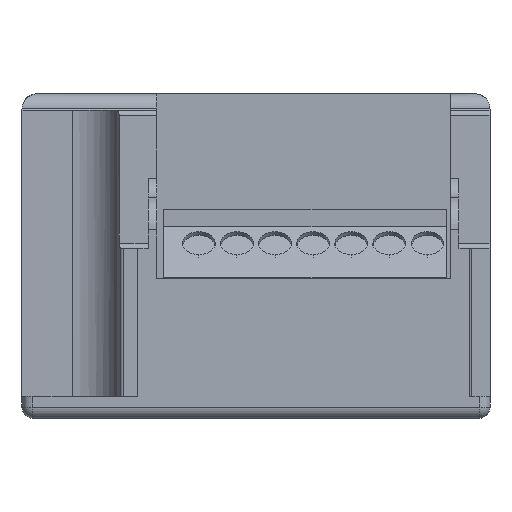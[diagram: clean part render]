
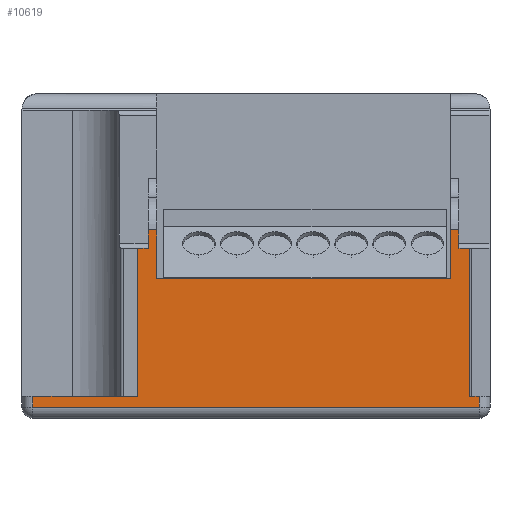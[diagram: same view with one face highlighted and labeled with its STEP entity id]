
A CAD part, front view. The second image highlights one B-rep face of the part: STEP entity #10619.
In plain terms, the highlighted planar face has unit normal (0, -1, 0).
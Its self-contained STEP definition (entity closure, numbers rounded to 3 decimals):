
#4217=DIRECTION('',(-0.001,0.,1.));
#4218=VECTOR('',#4217,4.5);
#4219=CARTESIAN_POINT('',(17.9,-65.,12.8));
#4220=LINE('',#4219,#4218);
#4224=DIRECTION('',(1.,0.,0.));
#4225=VECTOR('',#4224,0.748);
#4226=CARTESIAN_POINT('',(17.897,-65.,17.3));
#4227=LINE('',#4226,#4225);
#4231=DIRECTION('',(1.,0.,0.));
#4232=VECTOR('',#4231,1.);
#4233=CARTESIAN_POINT('',(18.645,-65.,15.6));
#4234=LINE('',#4233,#4232);
#4238=DIRECTION('',(0.,0.,-1.));
#4239=VECTOR('',#4238,13.6);
#4240=CARTESIAN_POINT('',(19.645,-65.,15.6));
#4241=LINE('',#4240,#4239);
#4245=DIRECTION('',(1.,0.,0.));
#4246=VECTOR('',#4245,0.855);
#4247=CARTESIAN_POINT('',(19.645,-65.,2.));
#4248=LINE('',#4247,#4246);
#4252=DIRECTION('',(0.,0.,-1.));
#4253=VECTOR('',#4252,1.);
#4254=CARTESIAN_POINT('',(20.5,-65.,2.));
#4255=LINE('',#4254,#4253);
#4259=DIRECTION('',(-1.,0.,0.));
#4260=VECTOR('',#4259,41.);
#4261=CARTESIAN_POINT('',(20.5,-65.,1.));
#4262=LINE('',#4261,#4260);
#4266=DIRECTION('',(0.,0.,-1.));
#4267=VECTOR('',#4266,1.);
#4268=CARTESIAN_POINT('',(-20.5,-65.,2.));
#4269=LINE('',#4268,#4267);
#4273=DIRECTION('',(1.,0.,0.));
#4274=VECTOR('',#4273,9.617);
#4275=CARTESIAN_POINT('',(-20.5,-65.,2.));
#4276=LINE('',#4275,#4274);
#4280=DIRECTION('',(0.,0.,-1.));
#4281=VECTOR('',#4280,13.6);
#4282=CARTESIAN_POINT('',(-10.883,-65.,15.6));
#4283=LINE('',#4282,#4281);
#4287=DIRECTION('',(1.,0.,0.));
#4288=VECTOR('',#4287,1.);
#4289=CARTESIAN_POINT('',(-10.883,-65.,15.6));
#4290=LINE('',#4289,#4288);
#4294=DIRECTION('',(0.,0.,-1.));
#4295=VECTOR('',#4294,4.5);
#4296=CARTESIAN_POINT('',(-9.133,-65.,17.3));
#4297=LINE('',#4296,#4295);
#4301=DIRECTION('',(1.,0.,0.));
#4302=VECTOR('',#4301,27.033);
#4303=CARTESIAN_POINT('',(-9.133,-65.,12.8));
#4304=LINE('',#4303,#4302);
#4315=DIRECTION('',(0.,0.,-1.));
#4316=VECTOR('',#4315,1.7);
#4317=CARTESIAN_POINT('',(18.645,-65.,17.3));
#4318=LINE('',#4317,#4316);
#4432=DIRECTION('',(0.,0.,1.));
#4433=VECTOR('',#4432,1.7);
#4434=CARTESIAN_POINT('',(-9.883,-65.,15.6));
#4435=LINE('',#4434,#4433);
#4746=DIRECTION('',(1.,0.,0.));
#4747=VECTOR('',#4746,0.75);
#4748=CARTESIAN_POINT('',(-9.883,-65.,17.3));
#4749=LINE('',#4748,#4747);
#6554=CARTESIAN_POINT('',(-20.5,-65.,2.));
#6555=CARTESIAN_POINT('',(-10.883,-65.,2.));
#6556=VERTEX_POINT('',#6554);
#6557=VERTEX_POINT('',#6555);
#6566=CARTESIAN_POINT('',(-9.133,-65.,12.8));
#6567=CARTESIAN_POINT('',(17.9,-65.,12.8));
#6568=VERTEX_POINT('',#6566);
#6569=VERTEX_POINT('',#6567);
#6570=CARTESIAN_POINT('',(20.5,-65.,1.));
#6571=CARTESIAN_POINT('',(-20.5,-65.,1.));
#6572=VERTEX_POINT('',#6570);
#6573=VERTEX_POINT('',#6571);
#6710=CARTESIAN_POINT('',(19.645,-65.,2.));
#6711=CARTESIAN_POINT('',(20.5,-65.,2.));
#6712=VERTEX_POINT('',#6710);
#6713=VERTEX_POINT('',#6711);
#6756=CARTESIAN_POINT('',(-9.883,-65.,17.3));
#6758=VERTEX_POINT('',#6756);
#6762=CARTESIAN_POINT('',(-9.133,-65.,17.3));
#6764=VERTEX_POINT('',#6762);
#6777=CARTESIAN_POINT('',(-9.883,-65.,15.6));
#6779=VERTEX_POINT('',#6777);
#6813=CARTESIAN_POINT('',(18.645,-65.,15.6));
#6815=VERTEX_POINT('',#6813);
#6905=CARTESIAN_POINT('',(-10.883,-65.,15.6));
#6906=VERTEX_POINT('',#6905);
#6911=CARTESIAN_POINT('',(18.645,-65.,17.3));
#6912=VERTEX_POINT('',#6911);
#6917=CARTESIAN_POINT('',(17.895,-65.,17.3));
#6918=VERTEX_POINT('',#6917);
#6919=CARTESIAN_POINT('',(19.645,-65.,15.6));
#6920=VERTEX_POINT('',#6919);
#10585=CARTESIAN_POINT('',(-21.5,-65.,0.));
#10586=DIRECTION('',(0.,-1.,0.));
#10587=DIRECTION('',(1.,0.,0.));
#10588=AXIS2_PLACEMENT_3D('',#10585,#10586,#10587);
#10589=PLANE('',#10588);
#10590=ORIENTED_EDGE('',*,*,#9909,.T.);
#10592=ORIENTED_EDGE('',*,*,#10591,.T.);
#10594=ORIENTED_EDGE('',*,*,#10593,.T.);
#10596=ORIENTED_EDGE('',*,*,#10595,.T.);
#10598=ORIENTED_EDGE('',*,*,#10597,.T.);
#10599=ORIENTED_EDGE('',*,*,#7973,.T.);
#10601=ORIENTED_EDGE('',*,*,#10600,.T.);
#10603=ORIENTED_EDGE('',*,*,#10602,.T.);
#10605=ORIENTED_EDGE('',*,*,#10604,.F.);
#10606=ORIENTED_EDGE('',*,*,#8063,.T.);
#10608=ORIENTED_EDGE('',*,*,#10607,.F.);
#10610=ORIENTED_EDGE('',*,*,#10609,.T.);
#10612=ORIENTED_EDGE('',*,*,#10611,.T.);
#10614=ORIENTED_EDGE('',*,*,#10613,.T.);
#10615=ORIENTED_EDGE('',*,*,#9832,.T.);
#10616=ORIENTED_EDGE('',*,*,#9922,.T.);
#10617=EDGE_LOOP('',(#10590,#10592,#10594,#10596,#10598,#10599,#10601,#10603,
#10605,#10606,#10608,#10610,#10612,#10614,#10615,#10616));
#10618=FACE_OUTER_BOUND('',#10617,.F.);
#7973=EDGE_CURVE('',#6712,#6713,#4248,.T.);
#8063=EDGE_CURVE('',#6556,#6557,#4276,.T.);
#9832=EDGE_CURVE('',#6764,#6568,#4297,.T.);
#9909=EDGE_CURVE('',#6569,#6918,#4220,.T.);
#9922=EDGE_CURVE('',#6568,#6569,#4304,.T.);
#10591=EDGE_CURVE('',#6918,#6912,#4227,.T.);
#10593=EDGE_CURVE('',#6912,#6815,#4318,.T.);
#10595=EDGE_CURVE('',#6815,#6920,#4234,.T.);
#10597=EDGE_CURVE('',#6920,#6712,#4241,.T.);
#10600=EDGE_CURVE('',#6713,#6572,#4255,.T.);
#10602=EDGE_CURVE('',#6572,#6573,#4262,.T.);
#10604=EDGE_CURVE('',#6556,#6573,#4269,.T.);
#10607=EDGE_CURVE('',#6906,#6557,#4283,.T.);
#10609=EDGE_CURVE('',#6906,#6779,#4290,.T.);
#10611=EDGE_CURVE('',#6779,#6758,#4435,.T.);
#10613=EDGE_CURVE('',#6758,#6764,#4749,.T.);
#10619=ADVANCED_FACE('',(#10618),#10589,.T.);
